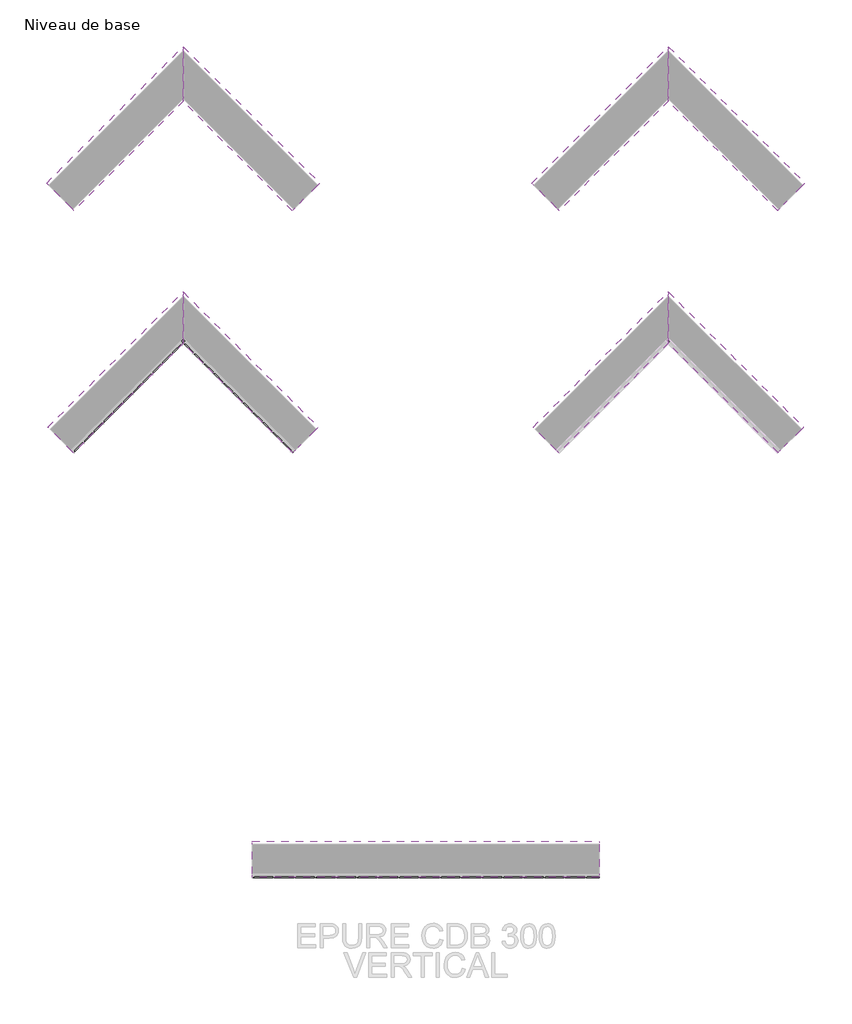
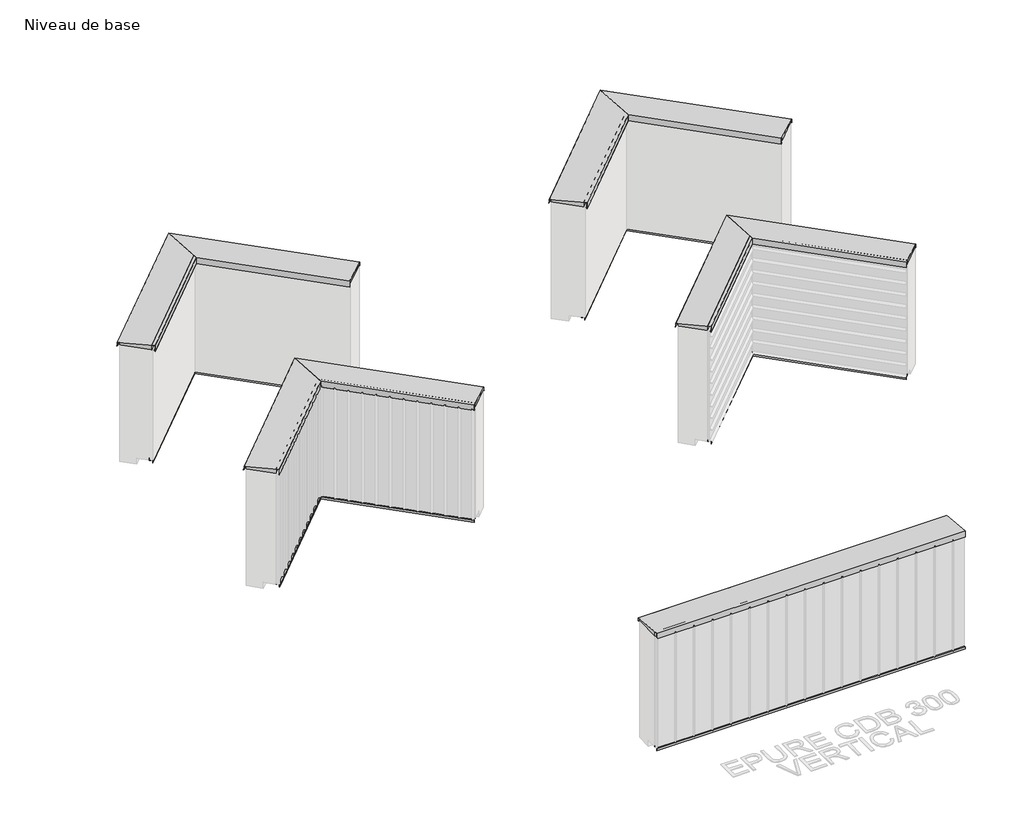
# One storey, part 12 of 13: 18 proxies.
"""IFC4 building model written with IfcOpenShell, lengths in millimetres."""

import ifcopenshell
import ifcopenshell.guid

model = None  # the IFC model being written
_history = None  # IfcOwnerHistory: only IFC2X3 demands one
_inside = {}  # id of a spatial element -> (the spatial element, [elements in it])
_under = {}  # id of a project, library or spatial element -> (it, [spatial elements below it])
_declared = {}  # id of a project -> (the project, [libraries it declares])
_typed = {}  # id of a type object -> (the type object, [elements of that type])
_made_of = {}  # id of a material, layer set ... -> (it, [elements and type objects made of it])


def new_model(schema):
    """Start an empty IFC model of exactly this schema.

    Asked for "IFC4X3", IfcOpenShell would pick the latest addendum, in which some entities
    have other attributes; the version numbers below select the first issue.
    IFC2X3 requires an IfcOwnerHistory on every rooted entity: one is made here for all.
    """
    global model, _history
    if schema == "IFC4X3":
        model = ifcopenshell.file(schema_version=(4, 3, 0, 0))
    else:
        model = ifcopenshell.file(schema=schema)
    _inside.clear()
    _under.clear()
    _declared.clear()
    _typed.clear()
    _made_of.clear()
    _history = None
    if model.schema == "IFC2X3":
        org = make("IfcOrganization", Name="unknown")
        user = make(
            "IfcPersonAndOrganization",
            ThePerson=make("IfcPerson", FamilyName="unknown"),
            TheOrganization=org,
        )
        app = make(
            "IfcApplication",
            ApplicationDeveloper=org,
            Version="unknown",
            ApplicationFullName="unknown",
            ApplicationIdentifier="unknown",
        )
        _history = make(
            "IfcOwnerHistory",
            OwningUser=user,
            OwningApplication=app,
            ChangeAction="ADDED",
            CreationDate=0,
        )
    return model


def make(cls, **values):
    """One entity of the class cls with the attributes given. An attribute that is None is left unset."""
    return model.create_entity(
        cls, **{name: value for name, value in values.items() if value is not None}
    )


def rooted(cls, **values):
    """An entity with a GlobalId (a new one), such as an element, a storey or a relation."""
    return make(cls, GlobalId=ifcopenshell.guid.new(), OwnerHistory=_history, **values)


def si_unit(unit_type, name, prefix=None):
    """IfcSIUnit, for example si_unit("LENGTHUNIT", "METRE", prefix="MILLI")."""
    return make("IfcSIUnit", UnitType=unit_type, Prefix=prefix, Name=name)


def assignment(units):
    """IfcUnitAssignment: the units of a project."""
    return None if units is None else make("IfcUnitAssignment", Units=units)


def point(xyz):
    """IfcCartesianPoint."""
    return None if xyz is None else make("IfcCartesianPoint", Coordinates=xyz)


def direction(xyz):
    """IfcDirection."""
    return None if xyz is None else make("IfcDirection", DirectionRatios=xyz)


def frame(location, z_axis=None, x_axis=None):
    """IfcAxis2Placement3D, a coordinate frame: its origin and axes. An axis left out is left unset."""
    return make(
        "IfcAxis2Placement3D",
        Location=point(location),
        Axis=direction(z_axis),
        RefDirection=direction(x_axis),
    )


def origin():
    """The frame at (0, 0, 0) with its axes left unset."""
    return frame((0.0, 0.0, 0.0))


def place(relative_to, where):
    """IfcLocalPlacement: puts the frame where relative to a parent placement (None: the world)."""
    return make(
        "IfcLocalPlacement", PlacementRelTo=relative_to, RelativePlacement=where
    )


def context(
    kind, dimensions, precision=None, world=None, true_north=None, identifier=None
):
    """IfcGeometricRepresentationContext, for example the 3D "Model" context."""
    return make(
        "IfcGeometricRepresentationContext",
        ContextIdentifier=identifier,
        ContextType=kind,
        CoordinateSpaceDimension=dimensions,
        Precision=precision,
        WorldCoordinateSystem=world,
        TrueNorth=true_north,
    )


def project(units=None, contexts=None):
    """IfcProject with its units and contexts."""
    return rooted(
        "IfcProject",
        Name="project",
        RepresentationContexts=contexts,
        UnitsInContext=assignment(units),
    )


def spatial(cls, under=None, at=None, **own):
    """A site, building, storey or space (cls), placed at a placement, below another one or the project."""
    s = rooted(cls, ObjectPlacement=at, **own)
    if under is not None:
        _under.setdefault(under.id(), (under, []))[1].append(s)
    return s


def polyline(points):
    """IfcPolyline through the points."""
    return make("IfcPolyline", Points=[point(p) for p in points])


def outline(outer, holes=None, kind="AREA"):
    """IfcArbitraryClosedProfileDef: a profile drawn as a closed curve; with holes, ...WithVoids."""
    if holes is None:
        return make("IfcArbitraryClosedProfileDef", ProfileType=kind, OuterCurve=outer)
    return make(
        "IfcArbitraryProfileDefWithVoids",
        ProfileType=kind,
        OuterCurve=outer,
        InnerCurves=holes,
    )


def extrude(swept, where, along, depth):
    """IfcExtrudedAreaSolid: the profile swept, set in the frame where, extruded along a direction by depth."""
    return make(
        "IfcExtrudedAreaSolid",
        SweptArea=swept,
        Position=where,
        ExtrudedDirection=direction(along),
        Depth=depth,
    )


def faces_of(points, faces, orient=None, outer=None):
    """IfcFace entities. A face is a list of loops; a loop is a list of indices into points, from 0.

    orient and outer hold one flag for each loop. By default every Orientation is true, the
    first loop of a face is its IfcFaceOuterBound and the others are IfcFaceBound.
    """
    made = []
    for i, loops in enumerate(faces):
        bounds = []
        for j, loop in enumerate(loops):
            is_outer = j == 0 if outer is None else outer[i][j]
            bounds.append(
                make(
                    "IfcFaceOuterBound" if is_outer else "IfcFaceBound",
                    Bound=make("IfcPolyLoop", Polygon=[points[k] for k in loop]),
                    Orientation=True if orient is None else orient[i][j],
                )
            )
        made.append(make("IfcFace", Bounds=bounds))
    return made


def faceted_brep(points, faces, orient=None, outer=None, voids=None):
    """IfcFacetedBrep: a solid bounded by flat faces; with voids (closed shells), ...WithVoids."""
    shared = [point(p) for p in points]
    hull = make("IfcClosedShell", CfsFaces=faces_of(shared, faces, orient, outer))
    if voids is None:
        return make("IfcFacetedBrep", Outer=hull)
    return make(
        "IfcFacetedBrepWithVoids",
        Outer=hull,
        Voids=[
            make(cls, CfsFaces=faces_of(shared, fs, o, b)) for cls, fs, o, b in voids
        ],
    )


def shape(context_of_items, identifier, shape_type, items):
    """IfcShapeRepresentation: the items that make up one representation, for example the "Body"."""
    return make(
        "IfcShapeRepresentation",
        ContextOfItems=context_of_items,
        RepresentationIdentifier=identifier,
        RepresentationType=shape_type,
        Items=items,
    )


def made_of(thing, what):
    """Note that an element or type object is made of a material, layer set ...; save() writes the relation."""
    if what is not None:
        _made_of.setdefault(what.id(), (what, []))[1].append(thing)
    return thing


def element(
    cls,
    number,
    at=None,
    inside=None,
    cuts=None,
    type_object=None,
    material=None,
    context=None,
    identifier="Body",
    shape_type=None,
    held_by="IfcProductDefinitionShape",
    body=None,
    shapes=None,
    **own,
):
    """One element of the class cls, such as IfcWall. Its Tag is "e" and its number.

    at: its placement. inside: the storey or other place that contains it. cuts: it is an
    opening in that element (IfcRelVoidsElement). A single representation is given by context,
    identifier, shape_type and body (its items); several are given by shapes. held_by: the class
    of the entity that holds the representations. save() writes the other relations.
    """
    e = rooted(cls, Tag="e%d" % number, ObjectPlacement=at, **own)
    if body is not None:
        shapes = [shape(context, identifier, shape_type, body)]
    if shapes is not None:
        e.Representation = make(held_by, Representations=shapes)
    if inside is not None:
        _inside.setdefault(inside.id(), (inside, []))[1].append(e)
    if cuts is not None:
        rooted(
            "IfcRelVoidsElement", RelatingBuildingElement=cuts, RelatedOpeningElement=e
        )
    if type_object is not None:
        _typed.setdefault(type_object.id(), (type_object, []))[1].append(e)
    return made_of(e, material)


def aggregate(whole, parts):
    """IfcRelAggregates: a whole, such as a stair, and the parts it consists of."""
    return rooted("IfcRelAggregates", RelatingObject=whole, RelatedObjects=parts)


def save(model, path):
    """Write the relations noted so far, then the file.

    IfcRelAggregates (storeys below a building ...), IfcRelContainedInSpatialStructure (elements
    in a storey), IfcRelDefinesByType, IfcRelAssociatesMaterial and IfcRelDeclares: one each for
    every whole, place, type object, material and project.
    """
    for whole, parts in _under.values():
        aggregate(whole, parts)
    for where, things in _inside.values():
        rooted(
            "IfcRelContainedInSpatialStructure",
            RelatedElements=things,
            RelatingStructure=where,
        )
    for kind, things in _typed.values():
        rooted("IfcRelDefinesByType", RelatedObjects=things, RelatingType=kind)
    for what, things in _made_of.values():
        rooted("IfcRelAssociatesMaterial", RelatedObjects=things, RelatingMaterial=what)
    for by, libraries in _declared.values():
        rooted("IfcRelDeclares", RelatingContext=by, RelatedDefinitions=libraries)
    model.write(path)


model = new_model("IFC4")

# Units and contexts
model_context = context("Model", 3, world=origin())
ifc_project = project(units=[si_unit("LENGTHUNIT", "METRE", prefix="MILLI")], contexts=[model_context])

# Site, building, storey
site = spatial("IfcSite", under=ifc_project)
building = spatial("IfcBuilding", under=site)
storey = spatial("IfcBuildingStorey", under=building, Name="Niveau de base", Elevation=0.0)

# Proxies
placement = place(None, origin())
element("IfcBuildingElementProxy", 1, Name="Wall Sweeps", at=placement, inside=storey, context=model_context, shape_type="Brep", body=[
    faceted_brep([(1981.5955955, 43476.5358212, 1980.4303772), (1981.5955955, 43476.5358212, 2082.3537875), (1593.6515485, 43864.4798682, 2034.2673856), (1593.6515485, 43864.4798682, 1985.4349362), (1586.3586553, 43871.7727614, 1975.1212277), (1586.8586553, 43871.2727614, 1974.4141209), (1594.3586553, 43863.7727614, 1985.0207227), (1594.3586553, 43863.7727614, 2033.3383964), (1616.1982386, 43841.933178, 2036.0405569), (1616.1982386, 43841.933178, 2000.0), (1947.831319, 43510.3000977, 2000.0), (1947.831319, 43510.3000977, 2077.1602287), (1980.8902575, 43477.2411592, 2081.2505336), (1981.0508254, 43477.0805913, 1981.2007984), (1971.9284988, 43486.2029178, 1994.1017164), (1971.4284988, 43486.7029178, 1993.3946096), (1980.5955955, 43477.5358212, 1980.4303772), (3557.0295763, 45051.969802, 1980.4303772), (3557.0295763, 45053.969802, 1980.4303772), (3557.0295763, 45072.3039953, 1993.3946096), (3557.0295763, 45071.3039953, 1994.1017164), (3557.0295763, 45053.0593422, 1981.2007984), (3557.0295763, 45053.380478, 2081.2505336), (3557.0295763, 45119.4983549, 2077.1602287), (3557.0295763, 45119.4983549, 2000.0), (3557.0295763, 45782.7645157, 2000.0), (3557.0295763, 45782.7645157, 2036.0405569), (3557.0295763, 45826.4436824, 2033.3383964), (3557.0295763, 45826.4436824, 1985.0207227), (3557.0295763, 45841.4436824, 1974.4141209), (3557.0295763, 45842.4436824, 1975.1212277), (3557.0295763, 45827.857896, 1985.4349362), (3557.0295763, 45827.857896, 2034.2673856), (3557.0295763, 45051.969802, 2082.3537875)], [[[0, 1, 2, 3, 4, 5, 6, 7, 8, 9, 10, 11, 12, 13, 14, 15, 16]], [[17, 18, 19, 20, 21, 22, 23, 24, 25, 26, 27, 28, 29, 30, 31, 32, 33]], [[1, 0, 17, 33]], [[2, 1, 33, 32]], [[3, 2, 32, 31]], [[4, 3, 31, 30]], [[5, 4, 30, 29]], [[6, 5, 29, 28]], [[7, 6, 28, 27]], [[8, 7, 27, 26]], [[9, 8, 26, 25]], [[10, 9, 25, 24]], [[11, 10, 24, 23]], [[12, 11, 23, 22]], [[13, 12, 22, 21]], [[14, 13, 21, 20]], [[15, 14, 20, 19]], [[16, 15, 19, 18]], [[0, 16, 18, 17]]]),
])
element("IfcBuildingElementProxy", 2, Name="Wall Sweeps", at=placement, inside=storey, context=model_context, shape_type="Brep", body=[
    faceted_brep([(1921.6683681, 43536.4630486, 130.0), (1920.9612613, 43537.1701553, 130.0), (1920.9612613, 43537.1701553, 100.0), (1920.9612613, 43537.1701553, 99.4012185), (1957.0237072, 43501.1077095, 94.9392966), (1957.0237072, 43501.1077095, 62.75208), (1957.7308139, 43500.4006027, 62.75208), (1957.7308139, 43500.4006027, 95.5380782), (1921.6683681, 43536.4630486, 100.0), (3557.0295763, 45171.8242568, 130.0), (3557.0295763, 45171.8242568, 100.0), (3557.0295763, 45099.6993651, 95.5380782), (3557.0295763, 45099.6993651, 62.75208), (3557.0295763, 45101.1135786, 62.75208), (3557.0295763, 45101.1135786, 94.9392966), (3557.0295763, 45173.2384703, 99.4012185), (3557.0295763, 45173.2384703, 100.0), (3557.0295763, 45173.2384703, 130.0)], [[[0, 1, 2, 3, 4, 5, 6, 7, 8]], [[9, 10, 11, 12, 13, 14, 15, 16, 17]], [[1, 0, 9, 17]], [[3, 2, 1, 17, 16, 15]], [[4, 3, 15, 14]], [[5, 4, 14, 13]], [[6, 5, 13, 12]], [[7, 6, 12, 11]], [[8, 7, 11, 10]], [[0, 8, 10, 9]]]),
])
element("IfcBuildingElementProxy", 3, Name="Wall Sweeps", at=placement, inside=storey, context=model_context, shape_type="Brep", body=[
    faceted_brep([(3557.0295763, 45051.969802, 1980.4303772), (3557.0295763, 45051.969802, 2082.3537875), (3557.0295763, 45827.857896, 2034.2673856), (3557.0295763, 45827.857896, 1985.4349362), (3557.0295763, 45842.4436824, 1975.1212277), (3557.0295763, 45841.4436824, 1974.4141209), (3557.0295763, 45826.4436824, 1985.0207227), (3557.0295763, 45826.4436824, 2033.3383964), (3557.0295763, 45782.7645157, 2036.0405569), (3557.0295763, 45782.7645157, 2000.0), (3557.0295763, 45119.4983549, 2000.0), (3557.0295763, 45119.4983549, 2077.1602287), (3557.0295763, 45053.380478, 2081.2505336), (3557.0295763, 45053.0593422, 1981.2007984), (3557.0295763, 45071.3039953, 1994.1017164), (3557.0295763, 45072.3039953, 1993.3946096), (3557.0295763, 45053.969802, 1980.4303772), (5132.4635571, 43476.5358212, 1980.4303772), (5133.4635571, 43477.5358212, 1980.4303772), (5142.6306538, 43486.7029178, 1993.3946096), (5142.1306538, 43486.2029178, 1994.1017164), (5133.0083272, 43477.0805913, 1981.2007984), (5133.1688951, 43477.2411592, 2081.2505336), (5166.2278336, 43510.3000977, 2077.1602287), (5166.2278336, 43510.3000977, 2000.0), (5497.8609139, 43841.933178, 2000.0), (5497.8609139, 43841.933178, 2036.0405569), (5519.7004973, 43863.7727614, 2033.3383964), (5519.7004973, 43863.7727614, 1985.0207227), (5527.2004973, 43871.2727614, 1974.4141209), (5527.7004973, 43871.7727614, 1975.1212277), (5520.4076041, 43864.4798682, 1985.4349362), (5520.4076041, 43864.4798682, 2034.2673856), (5132.4635571, 43476.5358212, 2082.3537875)], [[[0, 1, 2, 3, 4, 5, 6, 7, 8, 9, 10, 11, 12, 13, 14, 15, 16]], [[17, 18, 19, 20, 21, 22, 23, 24, 25, 26, 27, 28, 29, 30, 31, 32, 33]], [[1, 0, 17, 33]], [[2, 1, 33, 32]], [[3, 2, 32, 31]], [[4, 3, 31, 30]], [[5, 4, 30, 29]], [[6, 5, 29, 28]], [[7, 6, 28, 27]], [[8, 7, 27, 26]], [[9, 8, 26, 25]], [[10, 9, 25, 24]], [[11, 10, 24, 23]], [[12, 11, 23, 22]], [[13, 12, 22, 21]], [[14, 13, 21, 20]], [[15, 14, 20, 19]], [[16, 15, 19, 18]], [[0, 16, 18, 17]]]),
])
element("IfcBuildingElementProxy", 4, Name="Wall Sweeps", at=placement, inside=storey, context=model_context, shape_type="Brep", body=[
    faceted_brep([(3557.0295763, 45171.8242568, 130.0), (3557.0295763, 45173.2384703, 130.0), (3557.0295763, 45173.2384703, 100.0), (3557.0295763, 45173.2384703, 99.4012185), (3557.0295763, 45101.1135786, 94.9392966), (3557.0295763, 45101.1135786, 62.75208), (3557.0295763, 45099.6993651, 62.75208), (3557.0295763, 45099.6993651, 95.5380782), (3557.0295763, 45171.8242568, 100.0), (5192.3907845, 43536.4630486, 130.0), (5192.3907845, 43536.4630486, 100.0), (5156.3283386, 43500.4006027, 95.5380782), (5156.3283386, 43500.4006027, 62.75208), (5157.0354454, 43501.1077095, 62.75208), (5157.0354454, 43501.1077095, 94.9392966), (5193.0978913, 43537.1701553, 99.4012185), (5193.0978913, 43537.1701553, 100.0), (5193.0978913, 43537.1701553, 130.0)], [[[0, 1, 2, 3, 4, 5, 6, 7, 8]], [[9, 10, 11, 12, 13, 14, 15, 16, 17]], [[1, 0, 9, 17]], [[3, 2, 1, 17, 16, 15]], [[4, 3, 15, 14]], [[5, 4, 14, 13]], [[6, 5, 13, 12]], [[7, 6, 12, 11]], [[8, 7, 11, 10]], [[0, 8, 10, 9]]]),
])
element("IfcBuildingElementProxy", 5, Name="Wall Sweeps", at=placement, inside=storey, context=model_context, shape_type="Brep", body=[
    faceted_brep([(8981.5955955, 43476.5358212, 1980.4303772), (8981.5955955, 43476.5358212, 2082.3537875), (8593.6515485, 43864.4798682, 2034.2673856), (8593.6515485, 43864.4798682, 1985.4349362), (8586.3586553, 43871.7727614, 1975.1212277), (8586.8586553, 43871.2727614, 1974.4141209), (8594.3586553, 43863.7727614, 1985.0207227), (8594.3586553, 43863.7727614, 2033.3383964), (8616.1982386, 43841.933178, 2036.0405569), (8616.1982386, 43841.933178, 2000.0), (8947.831319, 43510.3000977, 2000.0), (8947.831319, 43510.3000977, 2077.1602287), (8980.8902575, 43477.2411592, 2081.2505336), (8981.0508254, 43477.0805913, 1981.2007984), (8971.9284988, 43486.2029178, 1994.1017164), (8971.4284988, 43486.7029178, 1993.3946096), (8980.5955955, 43477.5358212, 1980.4303772), (10557.0295763, 45051.969802, 1980.4303772), (10557.0295763, 45053.969802, 1980.4303772), (10557.0295763, 45072.3039953, 1993.3946096), (10557.0295763, 45071.3039953, 1994.1017164), (10557.0295763, 45053.0593422, 1981.2007984), (10557.0295763, 45053.380478, 2081.2505336), (10557.0295763, 45119.4983549, 2077.1602287), (10557.0295763, 45119.4983549, 2000.0), (10557.0295763, 45782.7645157, 2000.0), (10557.0295763, 45782.7645157, 2036.0405569), (10557.0295763, 45826.4436824, 2033.3383964), (10557.0295763, 45826.4436824, 1985.0207227), (10557.0295763, 45841.4436824, 1974.4141209), (10557.0295763, 45842.4436824, 1975.1212277), (10557.0295763, 45827.857896, 1985.4349362), (10557.0295763, 45827.857896, 2034.2673856), (10557.0295763, 45051.969802, 2082.3537875)], [[[0, 1, 2, 3, 4, 5, 6, 7, 8, 9, 10, 11, 12, 13, 14, 15, 16]], [[17, 18, 19, 20, 21, 22, 23, 24, 25, 26, 27, 28, 29, 30, 31, 32, 33]], [[1, 0, 17, 33]], [[2, 1, 33, 32]], [[3, 2, 32, 31]], [[4, 3, 31, 30]], [[5, 4, 30, 29]], [[6, 5, 29, 28]], [[7, 6, 28, 27]], [[8, 7, 27, 26]], [[9, 8, 26, 25]], [[10, 9, 25, 24]], [[11, 10, 24, 23]], [[12, 11, 23, 22]], [[13, 12, 22, 21]], [[14, 13, 21, 20]], [[15, 14, 20, 19]], [[16, 15, 19, 18]], [[0, 16, 18, 17]]]),
])
element("IfcBuildingElementProxy", 6, Name="Wall Sweeps", at=placement, inside=storey, context=model_context, shape_type="Brep", body=[
    faceted_brep([(8921.6683681, 43536.4630486, 130.0), (8920.9612613, 43537.1701553, 130.0), (8920.9612613, 43537.1701553, 100.0), (8920.9612613, 43537.1701553, 99.4012185), (8957.0237072, 43501.1077095, 94.9392966), (8957.0237072, 43501.1077095, 62.75208), (8957.7308139, 43500.4006027, 62.75208), (8957.7308139, 43500.4006027, 95.5380782), (8921.6683681, 43536.4630486, 100.0), (10557.0295763, 45171.8242568, 130.0), (10557.0295763, 45171.8242568, 100.0), (10557.0295763, 45099.6993651, 95.5380782), (10557.0295763, 45099.6993651, 62.75208), (10557.0295763, 45101.1135786, 62.75208), (10557.0295763, 45101.1135786, 94.9392966), (10557.0295763, 45173.2384703, 99.4012185), (10557.0295763, 45173.2384703, 100.0), (10557.0295763, 45173.2384703, 130.0)], [[[0, 1, 2, 3, 4, 5, 6, 7, 8]], [[9, 10, 11, 12, 13, 14, 15, 16, 17]], [[1, 0, 9, 17]], [[3, 2, 1, 17, 16, 15]], [[4, 3, 15, 14]], [[5, 4, 14, 13]], [[6, 5, 13, 12]], [[7, 6, 12, 11]], [[8, 7, 11, 10]], [[0, 8, 10, 9]]]),
])
element("IfcBuildingElementProxy", 7, Name="Wall Sweeps", at=placement, inside=storey, context=model_context, shape_type="Brep", body=[
    faceted_brep([(10557.0295763, 45051.969802, 1980.4303772), (10557.0295763, 45051.969802, 2082.3537875), (10557.0295763, 45827.857896, 2034.2673856), (10557.0295763, 45827.857896, 1985.4349362), (10557.0295763, 45842.4436824, 1975.1212277), (10557.0295763, 45841.4436824, 1974.4141209), (10557.0295763, 45826.4436824, 1985.0207227), (10557.0295763, 45826.4436824, 2033.3383964), (10557.0295763, 45782.7645157, 2036.0405569), (10557.0295763, 45782.7645157, 2000.0), (10557.0295763, 45119.4983549, 2000.0), (10557.0295763, 45119.4983549, 2077.1602287), (10557.0295763, 45053.380478, 2081.2505336), (10557.0295763, 45053.0593422, 1981.2007984), (10557.0295763, 45071.3039953, 1994.1017164), (10557.0295763, 45072.3039953, 1993.3946096), (10557.0295763, 45053.969802, 1980.4303772), (12132.4635571, 43476.5358212, 1980.4303772), (12133.4635571, 43477.5358212, 1980.4303772), (12142.6306538, 43486.7029178, 1993.3946096), (12142.1306538, 43486.2029178, 1994.1017164), (12133.0083272, 43477.0805913, 1981.2007984), (12133.1688951, 43477.2411592, 2081.2505336), (12166.2278336, 43510.3000977, 2077.1602287), (12166.2278336, 43510.3000977, 2000.0), (12497.8609139, 43841.933178, 2000.0), (12497.8609139, 43841.933178, 2036.0405569), (12519.7004973, 43863.7727614, 2033.3383964), (12519.7004973, 43863.7727614, 1985.0207227), (12527.2004973, 43871.2727614, 1974.4141209), (12527.7004973, 43871.7727614, 1975.1212277), (12520.4076041, 43864.4798682, 1985.4349362), (12520.4076041, 43864.4798682, 2034.2673856), (12132.4635571, 43476.5358212, 2082.3537875)], [[[0, 1, 2, 3, 4, 5, 6, 7, 8, 9, 10, 11, 12, 13, 14, 15, 16]], [[17, 18, 19, 20, 21, 22, 23, 24, 25, 26, 27, 28, 29, 30, 31, 32, 33]], [[1, 0, 17, 33]], [[2, 1, 33, 32]], [[3, 2, 32, 31]], [[4, 3, 31, 30]], [[5, 4, 30, 29]], [[6, 5, 29, 28]], [[7, 6, 28, 27]], [[8, 7, 27, 26]], [[9, 8, 26, 25]], [[10, 9, 25, 24]], [[11, 10, 24, 23]], [[12, 11, 23, 22]], [[13, 12, 22, 21]], [[14, 13, 21, 20]], [[15, 14, 20, 19]], [[16, 15, 19, 18]], [[0, 16, 18, 17]]]),
])
element("IfcBuildingElementProxy", 8, Name="Wall Sweeps", at=placement, inside=storey, context=model_context, shape_type="Brep", body=[
    faceted_brep([(10557.0295763, 45171.8242568, 130.0), (10557.0295763, 45173.2384703, 130.0), (10557.0295763, 45173.2384703, 100.0), (10557.0295763, 45173.2384703, 99.4012185), (10557.0295763, 45101.1135786, 94.9392966), (10557.0295763, 45101.1135786, 62.75208), (10557.0295763, 45099.6993651, 62.75208), (10557.0295763, 45099.6993651, 95.5380782), (10557.0295763, 45171.8242568, 100.0), (12192.3907845, 43536.4630486, 130.0), (12192.3907845, 43536.4630486, 100.0), (12156.3283386, 43500.4006027, 95.5380782), (12156.3283386, 43500.4006027, 62.75208), (12157.0354454, 43501.1077095, 62.75208), (12157.0354454, 43501.1077095, 94.9392966), (12193.0978913, 43537.1701553, 99.4012185), (12193.0978913, 43537.1701553, 100.0), (12193.0978913, 43537.1701553, 130.0)], [[[0, 1, 2, 3, 4, 5, 6, 7, 8]], [[9, 10, 11, 12, 13, 14, 15, 16, 17]], [[1, 0, 9, 17]], [[3, 2, 1, 17, 16, 15]], [[4, 3, 15, 14]], [[5, 4, 14, 13]], [[6, 5, 13, 12]], [[7, 6, 12, 11]], [[8, 7, 11, 10]], [[0, 8, 10, 9]]]),
])
element("IfcBuildingElementProxy", 9, Name="Wall Sweeps", at=placement, inside=storey, context=model_context, shape_type="Brep", body=[
    faceted_brep([(1941.9976881, 40016.1337286, 130.0), (1941.2905813, 40016.8408354, 130.0), (1941.2905813, 40016.8408354, 100.0), (1941.2905813, 40016.8408354, 99.4012185), (1977.3530271, 39980.7783895, 94.9392966), (1977.3530271, 39980.7783895, 62.75208), (1978.0601339, 39980.0712828, 62.75208), (1978.0601339, 39980.0712828, 95.5380782), (1941.9976881, 40016.1337286, 100.0), (3557.0295763, 41631.1656168, 130.0), (3557.0295763, 41631.1656168, 100.0), (3557.0295763, 41559.0407252, 95.5380782), (3557.0295763, 41559.0407252, 62.75208), (3557.0295763, 41560.4549387, 62.75208), (3557.0295763, 41560.4549387, 94.9392966), (3557.0295763, 41632.5798304, 99.4012185), (3557.0295763, 41632.5798304, 100.0), (3557.0295763, 41632.5798304, 130.0)], [[[0, 1, 2, 3, 4, 5, 6, 7, 8]], [[9, 10, 11, 12, 13, 14, 15, 16, 17]], [[1, 0, 9, 17]], [[3, 2, 1, 17, 16, 15]], [[4, 3, 15, 14]], [[5, 4, 14, 13]], [[6, 5, 13, 12]], [[7, 6, 12, 11]], [[8, 7, 11, 10]], [[0, 8, 10, 9]]]),
])
element("IfcBuildingElementProxy", 10, Name="Wall Sweeps", at=placement, inside=storey, context=model_context, shape_type="Brep", body=[
    faceted_brep([(1975.7619645, 39982.3694521, 1979.18035), (1975.7619645, 39982.3694521, 2079.18035), (1613.9808684, 40344.1505482, 2034.4180235), (1613.9808684, 40344.1505482, 1984.5597829), (1606.4808684, 40351.6505482, 1973.9531812), (1606.9808684, 40351.1505482, 1973.2460744), (1614.6879752, 40343.4434414, 1984.1455693), (1614.6879752, 40343.4434414, 2033.5391604), (1636.5275586, 40321.6038581, 2036.2413208), (1636.5275586, 40321.6038581, 2000.0), (1941.9976881, 40016.1337286, 2000.0), (1941.9976881, 40016.1337286, 2074.0364235), (1975.0565469, 39983.0748698, 2078.1267185), (1975.2141006, 39982.9173161, 1979.9551466), (1967.7619645, 39990.3694521, 1990.4940584), (1967.2619645, 39990.8694521, 1989.7869517), (1974.7619645, 39983.3694521, 1979.18035), (3557.0295763, 41563.6370639, 1979.18035), (3557.0295763, 41565.6370639, 1979.18035), (3557.0295763, 41580.6370639, 1989.7869517), (3557.0295763, 41579.6370639, 1990.4940584), (3557.0295763, 41564.7327918, 1979.9551466), (3557.0295763, 41565.0478992, 2078.1267185), (3557.0295763, 41631.1656168, 2074.0364235), (3557.0295763, 41631.1656168, 2000.0), (3557.0295763, 42242.1058758, 2000.0), (3557.0295763, 42242.1058758, 2036.2413208), (3557.0295763, 42285.7850425, 2033.5391604), (3557.0295763, 42285.7850425, 1984.1455693), (3557.0295763, 42301.199256, 1973.2460744), (3557.0295763, 42302.199256, 1973.9531812), (3557.0295763, 42287.199256, 1984.5597829), (3557.0295763, 42287.199256, 2034.4180235), (3557.0295763, 41563.6370639, 2079.18035)], [[[0, 1, 2, 3, 4, 5, 6, 7, 8, 9, 10, 11, 12, 13, 14, 15, 16]], [[17, 18, 19, 20, 21, 22, 23, 24, 25, 26, 27, 28, 29, 30, 31, 32, 33]], [[1, 0, 17, 33]], [[2, 1, 33, 32]], [[3, 2, 32, 31]], [[4, 3, 31, 30]], [[5, 4, 30, 29]], [[6, 5, 29, 28]], [[7, 6, 28, 27]], [[8, 7, 27, 26]], [[9, 8, 26, 25]], [[10, 9, 25, 24]], [[11, 10, 24, 23]], [[12, 11, 23, 22]], [[13, 12, 22, 21]], [[14, 13, 21, 20]], [[15, 14, 20, 19]], [[16, 15, 19, 18]], [[0, 16, 18, 17]]]),
])
element("IfcBuildingElementProxy", 11, Name="Wall Sweeps", at=placement, inside=storey, context=model_context, shape_type="Brep", body=[
    faceted_brep([(3557.0295763, 41631.1656168, 130.0), (3557.0295763, 41632.5798304, 130.0), (3557.0295763, 41632.5798304, 100.0), (3557.0295763, 41632.5798304, 99.4012185), (3557.0295763, 41560.4549387, 94.9392966), (3557.0295763, 41560.4549387, 62.75208), (3557.0295763, 41559.0407252, 62.75208), (3557.0295763, 41559.0407252, 95.5380782), (3557.0295763, 41631.1656168, 100.0), (5172.0614645, 40016.1337286, 130.0), (5172.0614645, 40016.1337286, 100.0), (5135.9990187, 39980.0712828, 95.5380782), (5135.9990187, 39980.0712828, 62.75208), (5136.7061255, 39980.7783895, 62.75208), (5136.7061255, 39980.7783895, 94.9392966), (5172.7685713, 40016.8408354, 99.4012185), (5172.7685713, 40016.8408354, 100.0), (5172.7685713, 40016.8408354, 130.0)], [[[0, 1, 2, 3, 4, 5, 6, 7, 8]], [[9, 10, 11, 12, 13, 14, 15, 16, 17]], [[1, 0, 9, 17]], [[3, 2, 1, 17, 16, 15]], [[4, 3, 15, 14]], [[5, 4, 14, 13]], [[6, 5, 13, 12]], [[7, 6, 12, 11]], [[8, 7, 11, 10]], [[0, 8, 10, 9]]]),
])
element("IfcBuildingElementProxy", 12, Name="Wall Sweeps", at=placement, inside=storey, context=model_context, shape_type="Brep", body=[
    faceted_brep([(3557.0295763, 41563.6370639, 1979.18035), (3557.0295763, 41563.6370639, 2079.18035), (3557.0295763, 42287.199256, 2034.4180235), (3557.0295763, 42287.199256, 1984.5597829), (3557.0295763, 42302.199256, 1973.9531812), (3557.0295763, 42301.199256, 1973.2460744), (3557.0295763, 42285.7850425, 1984.1455693), (3557.0295763, 42285.7850425, 2033.5391604), (3557.0295763, 42242.1058758, 2036.2413208), (3557.0295763, 42242.1058758, 2000.0), (3557.0295763, 41631.1656168, 2000.0), (3557.0295763, 41631.1656168, 2074.0364235), (3557.0295763, 41565.0478992, 2078.1267185), (3557.0295763, 41564.7327918, 1979.9551466), (3557.0295763, 41579.6370639, 1990.4940584), (3557.0295763, 41580.6370639, 1989.7869517), (3557.0295763, 41565.6370639, 1979.18035), (5138.297188, 39982.3694521, 1979.18035), (5139.297188, 39983.3694521, 1979.18035), (5146.797188, 39990.8694521, 1989.7869517), (5146.297188, 39990.3694521, 1990.4940584), (5138.845052, 39982.9173161, 1979.9551466), (5139.0026057, 39983.0748698, 2078.1267185), (5172.0614645, 40016.1337286, 2074.0364235), (5172.0614645, 40016.1337286, 2000.0), (5477.531594, 40321.6038581, 2000.0), (5477.531594, 40321.6038581, 2036.2413208), (5499.3711773, 40343.4434414, 2033.5391604), (5499.3711773, 40343.4434414, 1984.1455693), (5507.0782841, 40351.1505482, 1973.2460744), (5507.5782841, 40351.6505482, 1973.9531812), (5500.0782841, 40344.1505482, 1984.5597829), (5500.0782841, 40344.1505482, 2034.4180235), (5138.297188, 39982.3694521, 2079.18035)], [[[0, 1, 2, 3, 4, 5, 6, 7, 8, 9, 10, 11, 12, 13, 14, 15, 16]], [[17, 18, 19, 20, 21, 22, 23, 24, 25, 26, 27, 28, 29, 30, 31, 32, 33]], [[1, 0, 17, 33]], [[2, 1, 33, 32]], [[3, 2, 32, 31]], [[4, 3, 31, 30]], [[5, 4, 30, 29]], [[6, 5, 29, 28]], [[7, 6, 28, 27]], [[8, 7, 27, 26]], [[9, 8, 26, 25]], [[10, 9, 25, 24]], [[11, 10, 24, 23]], [[12, 11, 23, 22]], [[13, 12, 22, 21]], [[14, 13, 21, 20]], [[15, 14, 20, 19]], [[16, 15, 19, 18]], [[0, 16, 18, 17]]]),
])
element("IfcBuildingElementProxy", 13, Name="Wall Sweeps", at=placement, inside=storey, context=model_context, shape_type="Brep", body=[
    faceted_brep([(8941.997688, 40016.1337286, 130.0), (8941.2905813, 40016.8408354, 130.0), (8941.2905813, 40016.8408354, 100.0), (8941.2905813, 40016.8408354, 99.4012185), (8977.3530271, 39980.7783895, 94.9392966), (8977.3530271, 39980.7783895, 62.75208), (8978.0601339, 39980.0712828, 62.75208), (8978.0601339, 39980.0712828, 95.5380782), (8941.997688, 40016.1337286, 100.0), (10557.0295763, 41631.1656168, 130.0), (10557.0295763, 41631.1656168, 100.0), (10557.0295763, 41559.0407252, 95.5380782), (10557.0295763, 41559.0407252, 62.75208), (10557.0295763, 41560.4549387, 62.75208), (10557.0295763, 41560.4549387, 94.9392966), (10557.0295763, 41632.5798304, 99.4012185), (10557.0295763, 41632.5798304, 100.0), (10557.0295763, 41632.5798304, 130.0)], [[[0, 1, 2, 3, 4, 5, 6, 7, 8]], [[9, 10, 11, 12, 13, 14, 15, 16, 17]], [[1, 0, 9, 17]], [[3, 2, 1, 17, 16, 15]], [[4, 3, 15, 14]], [[5, 4, 14, 13]], [[6, 5, 13, 12]], [[7, 6, 12, 11]], [[8, 7, 11, 10]], [[0, 8, 10, 9]]]),
])
element("IfcBuildingElementProxy", 14, Name="Wall Sweeps", at=placement, inside=storey, context=model_context, shape_type="Brep", body=[
    faceted_brep([(8975.7619645, 39982.3694521, 1979.18035), (8975.7619645, 39982.3694521, 2079.18035), (8613.9808684, 40344.1505482, 2034.4180235), (8613.9808684, 40344.1505482, 1984.5597829), (8606.4808684, 40351.6505482, 1973.9531812), (8606.9808684, 40351.1505482, 1973.2460744), (8614.6879752, 40343.4434414, 1984.1455693), (8614.6879752, 40343.4434414, 2033.5391604), (8636.5275586, 40321.6038581, 2036.2413208), (8636.5275586, 40321.6038581, 2000.0), (8941.997688, 40016.1337286, 2000.0), (8941.997688, 40016.1337286, 2074.0364235), (8975.0565469, 39983.0748698, 2078.1267185), (8975.2141006, 39982.9173161, 1979.9551466), (8967.7619645, 39990.3694521, 1990.4940584), (8967.2619645, 39990.8694521, 1989.7869517), (8974.7619645, 39983.3694521, 1979.18035), (10557.0295763, 41563.6370639, 1979.18035), (10557.0295763, 41565.6370639, 1979.18035), (10557.0295763, 41580.6370639, 1989.7869517), (10557.0295763, 41579.6370639, 1990.4940584), (10557.0295763, 41564.7327918, 1979.9551466), (10557.0295763, 41565.0478992, 2078.1267185), (10557.0295763, 41631.1656168, 2074.0364235), (10557.0295763, 41631.1656168, 2000.0), (10557.0295763, 42242.1058758, 2000.0), (10557.0295763, 42242.1058758, 2036.2413208), (10557.0295763, 42285.7850425, 2033.5391604), (10557.0295763, 42285.7850425, 1984.1455693), (10557.0295763, 42301.199256, 1973.2460744), (10557.0295763, 42302.199256, 1973.9531812), (10557.0295763, 42287.199256, 1984.5597829), (10557.0295763, 42287.199256, 2034.4180235), (10557.0295763, 41563.6370639, 2079.18035)], [[[0, 1, 2, 3, 4, 5, 6, 7, 8, 9, 10, 11, 12, 13, 14, 15, 16]], [[17, 18, 19, 20, 21, 22, 23, 24, 25, 26, 27, 28, 29, 30, 31, 32, 33]], [[1, 0, 17, 33]], [[2, 1, 33, 32]], [[3, 2, 32, 31]], [[4, 3, 31, 30]], [[5, 4, 30, 29]], [[6, 5, 29, 28]], [[7, 6, 28, 27]], [[8, 7, 27, 26]], [[9, 8, 26, 25]], [[10, 9, 25, 24]], [[11, 10, 24, 23]], [[12, 11, 23, 22]], [[13, 12, 22, 21]], [[14, 13, 21, 20]], [[15, 14, 20, 19]], [[16, 15, 19, 18]], [[0, 16, 18, 17]]]),
])
element("IfcBuildingElementProxy", 15, Name="Wall Sweeps", at=placement, inside=storey, context=model_context, shape_type="Brep", body=[
    faceted_brep([(10557.0295763, 41631.1656168, 130.0), (10557.0295763, 41632.5798304, 130.0), (10557.0295763, 41632.5798304, 100.0), (10557.0295763, 41632.5798304, 99.4012185), (10557.0295763, 41560.4549387, 94.9392966), (10557.0295763, 41560.4549387, 62.75208), (10557.0295763, 41559.0407252, 62.75208), (10557.0295763, 41559.0407252, 95.5380782), (10557.0295763, 41631.1656168, 100.0), (12172.0614645, 40016.1337286, 130.0), (12172.0614645, 40016.1337286, 100.0), (12135.9990187, 39980.0712828, 95.5380782), (12135.9990187, 39980.0712828, 62.75208), (12136.7061255, 39980.7783895, 62.75208), (12136.7061255, 39980.7783895, 94.9392966), (12172.7685713, 40016.8408354, 99.4012185), (12172.7685713, 40016.8408354, 100.0), (12172.7685713, 40016.8408354, 130.0)], [[[0, 1, 2, 3, 4, 5, 6, 7, 8]], [[9, 10, 11, 12, 13, 14, 15, 16, 17]], [[1, 0, 9, 17]], [[3, 2, 1, 17, 16, 15]], [[4, 3, 15, 14]], [[5, 4, 14, 13]], [[6, 5, 13, 12]], [[7, 6, 12, 11]], [[8, 7, 11, 10]], [[0, 8, 10, 9]]]),
])
element("IfcBuildingElementProxy", 16, Name="Wall Sweeps", at=placement, inside=storey, context=model_context, shape_type="Brep", body=[
    faceted_brep([(10557.0295763, 41563.6370639, 1979.18035), (10557.0295763, 41563.6370639, 2079.18035), (10557.0295763, 42287.199256, 2034.4180235), (10557.0295763, 42287.199256, 1984.5597829), (10557.0295763, 42302.199256, 1973.9531812), (10557.0295763, 42301.199256, 1973.2460744), (10557.0295763, 42285.7850425, 1984.1455693), (10557.0295763, 42285.7850425, 2033.5391604), (10557.0295763, 42242.1058758, 2036.2413208), (10557.0295763, 42242.1058758, 2000.0), (10557.0295763, 41631.1656168, 2000.0), (10557.0295763, 41631.1656168, 2074.0364235), (10557.0295763, 41565.0478992, 2078.1267185), (10557.0295763, 41564.7327918, 1979.9551466), (10557.0295763, 41579.6370639, 1990.4940584), (10557.0295763, 41580.6370639, 1989.7869517), (10557.0295763, 41565.6370639, 1979.18035), (12138.297188, 39982.3694521, 1979.18035), (12139.297188, 39983.3694521, 1979.18035), (12146.797188, 39990.8694521, 1989.7869517), (12146.297188, 39990.3694521, 1990.4940584), (12138.845052, 39982.9173161, 1979.9551466), (12139.0026057, 39983.0748698, 2078.1267185), (12172.0614645, 40016.1337286, 2074.0364235), (12172.0614645, 40016.1337286, 2000.0), (12477.531594, 40321.6038581, 2000.0), (12477.531594, 40321.6038581, 2036.2413208), (12499.3711773, 40343.4434414, 2033.5391604), (12499.3711773, 40343.4434414, 1984.1455693), (12507.0782841, 40351.1505482, 1973.2460744), (12507.5782841, 40351.6505482, 1973.9531812), (12500.0782841, 40344.1505482, 1984.5597829), (12500.0782841, 40344.1505482, 2034.4180235), (12138.297188, 39982.3694521, 2079.18035)], [[[0, 1, 2, 3, 4, 5, 6, 7, 8, 9, 10, 11, 12, 13, 14, 15, 16]], [[17, 18, 19, 20, 21, 22, 23, 24, 25, 26, 27, 28, 29, 30, 31, 32, 33]], [[1, 0, 17, 33]], [[2, 1, 33, 32]], [[3, 2, 32, 31]], [[4, 3, 31, 30]], [[5, 4, 30, 29]], [[6, 5, 29, 28]], [[7, 6, 28, 27]], [[8, 7, 27, 26]], [[9, 8, 26, 25]], [[10, 9, 25, 24]], [[11, 10, 24, 23]], [[12, 11, 23, 22]], [[13, 12, 22, 21]], [[14, 13, 21, 20]], [[15, 14, 20, 19]], [[16, 15, 19, 18]], [[0, 16, 18, 17]]]),
])
element("IfcBuildingElementProxy", 17, Name="Wall Sweeps", at=placement, inside=storey, context=model_context, shape_type="Brep", body=[
    faceted_brep([(4557.0295763, 33905.7785953, 130.0), (4557.0295763, 33906.7785953, 130.0), (4557.0295763, 33906.7785953, 100.0), (4557.0295763, 33906.7785953, 99.4012185), (4557.0295763, 33855.7785953, 94.9392966), (4557.0295763, 33855.7785953, 62.75208), (4557.0295763, 33854.7785953, 62.75208), (4557.0295763, 33854.7785953, 95.5380782), (4557.0295763, 33905.7785953, 100.0), (9557.0295763, 33905.7785953, 130.0), (9557.0295763, 33905.7785953, 100.0), (9557.0295763, 33854.7785953, 95.5380782), (9557.0295763, 33854.7785953, 62.75208), (9557.0295763, 33855.7785953, 62.75208), (9557.0295763, 33855.7785953, 94.9392966), (9557.0295763, 33906.7785953, 99.4012185), (9557.0295763, 33906.7785953, 100.0), (9557.0295763, 33906.7785953, 130.0)], [[[0, 1, 2, 3, 4, 5, 6, 7, 8]], [[9, 10, 11, 12, 13, 14, 15, 16, 17]], [[1, 0, 9, 17]], [[3, 2, 1, 17, 16, 15]], [[4, 3, 15, 14]], [[5, 4, 14, 13]], [[6, 5, 13, 12]], [[7, 6, 12, 11]], [[8, 7, 11, 10]], [[0, 8, 10, 9]]]),
])
element("IfcBuildingElementProxy", 18, Name="Wall Sweeps", at=placement, inside=storey, context=model_context, shape_type="SweptSolid", body=[
    extrude(outline(polyline([(33858.0286976, 1979.18035), (33858.0286976, 2079.18035), (34369.6644303, 2034.4180235), (34369.6644303, 1984.5597829), (34380.271032, 1973.9531812), (34379.5639252, 1973.2460744), (34368.6644303, 1984.1455693), (34368.6644303, 2033.5391604), (34337.7785953, 2036.2413208), (34337.7785953, 2000.0), (33905.7785953, 2000.0), (33905.7785953, 2074.0364235), (33859.0263088, 2078.1267185), (33858.8034942, 1979.9551466), (33869.3424061, 1990.4940584), (33870.0495129, 1989.7869517), (33859.4429112, 1979.18035), (33858.0286976, 1979.18035)])), frame((4557.0295763, 0.0, 0.0), z_axis=(1.0, 0.0, 0.0), x_axis=(0.0, 1.0, 0.0)), (0.0, 0.0, 1.0), 5000.0),
])

save(model, "model.ifc")
